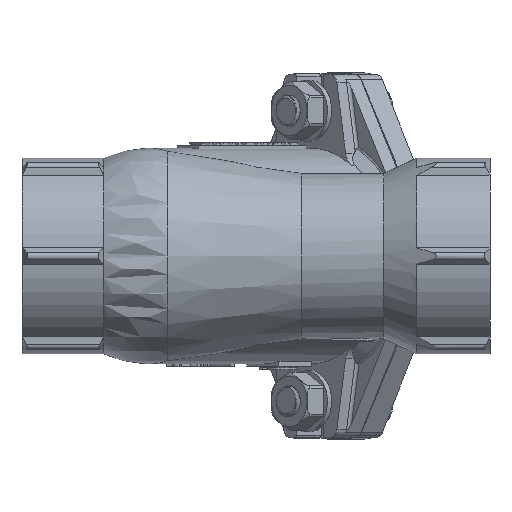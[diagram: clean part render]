
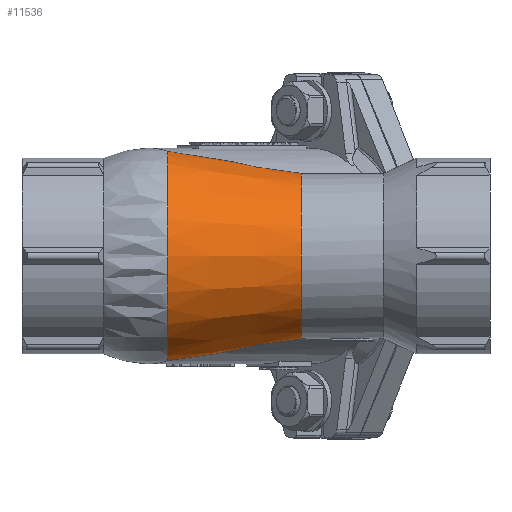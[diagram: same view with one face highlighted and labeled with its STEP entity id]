
A CAD part, front view. The second image highlights one B-rep face of the part: STEP entity #11536.
In plain terms, the highlighted conical face has half-angle 10 degrees and reference radius 34.715 mm.
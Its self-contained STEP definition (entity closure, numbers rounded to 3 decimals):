
#497=CONICAL_SURFACE('',#12394,34.714,0.175);
#2588=ELLIPSE('',#12396,96.43,35.25);
#2589=ELLIPSE('',#12400,96.43,35.25);
#3193=FACE_OUTER_BOUND('',#3898,.T.);
#3898=EDGE_LOOP('',(#8373,#8374,#8375,#8376,#8377,#8378));
#4649=CIRCLE('',#12395,27.);
#4650=CIRCLE('',#12397,35.25);
#4651=CIRCLE('',#12398,34.714);
#4652=CIRCLE('',#12399,35.25);
#5114=VERTEX_POINT('',#17749);
#5115=VERTEX_POINT('',#17750);
#5116=VERTEX_POINT('',#17752);
#5117=VERTEX_POINT('',#17754);
#5118=VERTEX_POINT('',#17756);
#5119=VERTEX_POINT('',#17758);
#6346=EDGE_CURVE('',#5114,#5115,#4649,.T.);
#6347=EDGE_CURVE('',#5116,#5115,#2588,.T.);
#6348=EDGE_CURVE('',#5116,#5117,#4650,.T.);
#6349=EDGE_CURVE('',#5118,#5117,#4651,.T.);
#6350=EDGE_CURVE('',#5118,#5119,#4652,.T.);
#6351=EDGE_CURVE('',#5114,#5119,#2589,.T.);
#8373=ORIENTED_EDGE('',*,*,#6346,.T.);
#8374=ORIENTED_EDGE('',*,*,#6347,.F.);
#8375=ORIENTED_EDGE('',*,*,#6348,.T.);
#8376=ORIENTED_EDGE('',*,*,#6349,.F.);
#8377=ORIENTED_EDGE('',*,*,#6350,.T.);
#8378=ORIENTED_EDGE('',*,*,#6351,.F.);
#11536=ADVANCED_FACE('',(#3193),#497,.T.);
#12394=AXIS2_PLACEMENT_3D('',#17748,#13945,#13946);
#12395=AXIS2_PLACEMENT_3D('',#17751,#13947,#13948);
#12396=AXIS2_PLACEMENT_3D('',#17753,#13949,#13950);
#12397=AXIS2_PLACEMENT_3D('',#17755,#13951,#13952);
#12398=AXIS2_PLACEMENT_3D('',#17757,#13953,#13954);
#12399=AXIS2_PLACEMENT_3D('',#17759,#13955,#13956);
#12400=AXIS2_PLACEMENT_3D('',#17760,#13957,#13958);
#13945=DIRECTION('center_axis',(-1.,0.,0.));
#13946=DIRECTION('ref_axis',(0.,-1.,0.));
#13947=DIRECTION('center_axis',(-1.,0.,0.));
#13948=DIRECTION('ref_axis',(0.,0.,1.));
#13949=DIRECTION('center_axis',(-0.4,0.917,0.));
#13950=DIRECTION('ref_axis',(0.917,0.4,0.));
#13951=DIRECTION('center_axis',(-0.707,-0.707,0.));
#13952=DIRECTION('ref_axis',(0.707,-0.707,0.));
#13953=DIRECTION('center_axis',(-1.,0.,0.));
#13954=DIRECTION('ref_axis',(0.,0.,1.));
#13955=DIRECTION('center_axis',(-0.707,-0.707,0.));
#13956=DIRECTION('ref_axis',(0.707,-0.707,0.));
#13957=DIRECTION('center_axis',(-0.4,0.917,0.));
#13958=DIRECTION('ref_axis',(0.917,0.4,0.));
#17748=CARTESIAN_POINT('Origin',(47.621,0.,0.));
#17749=CARTESIAN_POINT('',(91.372,12.956,-23.689));
#17750=CARTESIAN_POINT('',(91.372,12.956,23.689));
#17751=CARTESIAN_POINT('Origin',(91.372,0.,0.));
#17752=CARTESIAN_POINT('',(47.725,-6.076,34.16));
#17753=CARTESIAN_POINT('Origin',(25.914,-15.586,0.));
#17754=CARTESIAN_POINT('',(47.621,-5.972,34.197));
#17755=CARTESIAN_POINT('Origin',(41.574,0.074,0.));
#17756=CARTESIAN_POINT('',(47.621,-5.972,-34.197));
#17757=CARTESIAN_POINT('Origin',(47.621,0.,0.));
#17758=CARTESIAN_POINT('',(47.725,-6.076,-34.16));
#17759=CARTESIAN_POINT('Origin',(41.574,0.074,0.));
#17760=CARTESIAN_POINT('Origin',(25.914,-15.586,0.));
